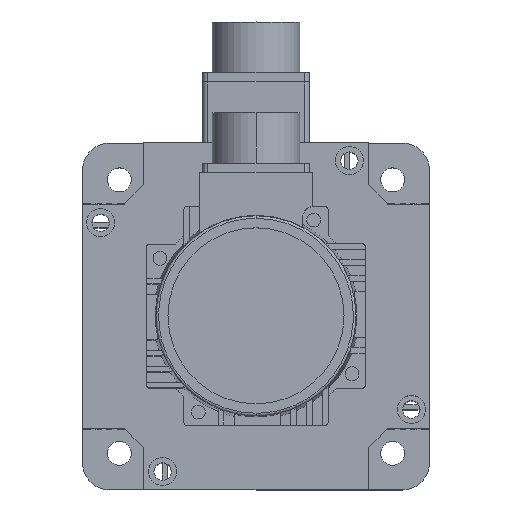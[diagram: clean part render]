
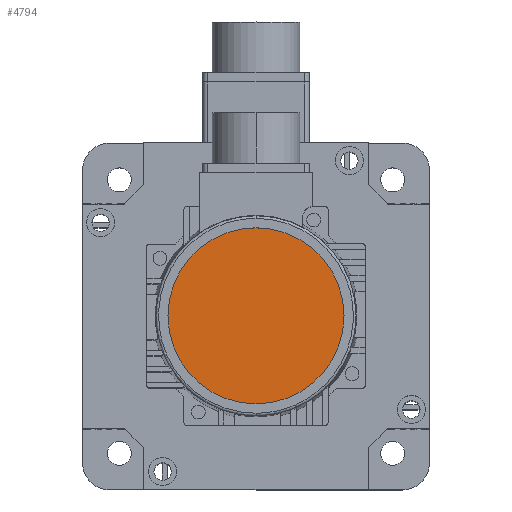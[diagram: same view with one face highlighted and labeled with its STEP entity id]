
A CAD part, top view. The second image highlights one B-rep face of the part: STEP entity #4794.
In plain terms, the highlighted planar face has unit normal (0, 0, 1).
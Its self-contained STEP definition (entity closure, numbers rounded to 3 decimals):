
#735 = DIRECTION ( 'NONE',  ( 1., 0., 0. ) ) ;
#1485 = CARTESIAN_POINT ( 'NONE',  ( -60.288, -2.493, 137.25 ) ) ;
#1999 = AXIS2_PLACEMENT_3D ( 'NONE', #28085, #28184, #735 ) ;
#4794 = ADVANCED_FACE ( 'NONE', ( #20536 ), #12123, .T. ) ;
#5972 = AXIS2_PLACEMENT_3D ( 'NONE', #1485, #17591, #10580 ) ;
#9062 = CIRCLE ( 'NONE', #5972, 33. ) ;
#9441 = CARTESIAN_POINT ( 'NONE',  ( -60.288, -2.493, 137.25 ) ) ;
#10156 = VERTEX_POINT ( 'NONE', #15219 ) ;
#10580 = DIRECTION ( 'NONE',  ( 1., 0., 0. ) ) ;
#12024 = CIRCLE ( 'NONE', #20866, 33. ) ;
#12050 = DIRECTION ( 'NONE',  ( 1., 0., 0. ) ) ;
#12123 = PLANE ( 'NONE',  #1999 ) ;
#15219 = CARTESIAN_POINT ( 'NONE',  ( -93.288, -2.493, 137.25 ) ) ;
#16823 = EDGE_LOOP ( 'NONE', ( #22838, #24642 ) ) ;
#17206 = EDGE_CURVE ( 'NONE', #24456, #10156, #9062, .T. ) ;
#17552 = CARTESIAN_POINT ( 'NONE',  ( -27.288, -2.493, 137.25 ) ) ;
#17591 = DIRECTION ( 'NONE',  ( 0., 0., 1. ) ) ;
#20536 = FACE_OUTER_BOUND ( 'NONE', #16823, .T. ) ;
#20866 = AXIS2_PLACEMENT_3D ( 'NONE', #9441, #27794, #12050 ) ;
#21441 = EDGE_CURVE ( 'NONE', #10156, #24456, #12024, .T. ) ;
#22838 = ORIENTED_EDGE ( 'NONE', *, *, #17206, .T. ) ;
#24456 = VERTEX_POINT ( 'NONE', #17552 ) ;
#24642 = ORIENTED_EDGE ( 'NONE', *, *, #21441, .T. ) ;
#27794 = DIRECTION ( 'NONE',  ( 0., 0., 1. ) ) ;
#28085 = CARTESIAN_POINT ( 'NONE',  ( -60.288, -2.493, 137.25 ) ) ;
#28184 = DIRECTION ( 'NONE',  ( 0., 0., 1. ) ) ;
